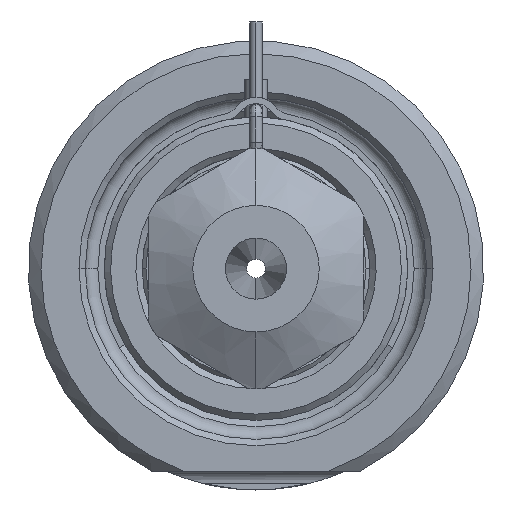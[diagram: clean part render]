
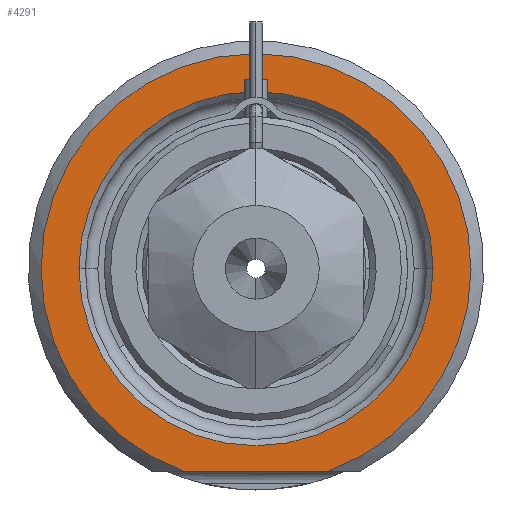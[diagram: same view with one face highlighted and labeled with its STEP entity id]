
A CAD part, front view. The second image highlights one B-rep face of the part: STEP entity #4291.
In plain terms, the highlighted planar face has unit normal (0, -1, 0).
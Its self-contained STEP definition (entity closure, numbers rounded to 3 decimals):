
#1365=CARTESIAN_POINT('',(0.,0.,0.));
#1366=DIRECTION('',(0.,-1.,0.));
#1367=DIRECTION('',(0.338,0.,-0.941));
#1368=AXIS2_PLACEMENT_3D('',#1365,#1366,#1367);
#1389=DIRECTION('',(1.,0.,0.));
#1390=VECTOR('',#1389,11.489);
#1391=CARTESIAN_POINT('',(-5.745,0.,-16.));
#1392=LINE('',#1391,#1390);
#1393=CARTESIAN_POINT('',(0.,0.,0.));
#1394=DIRECTION('',(0.,1.,0.));
#1395=DIRECTION('',(-1.,0.,0.));
#1396=AXIS2_PLACEMENT_3D('',#1393,#1394,#1395);
#1398=CARTESIAN_POINT('',(0.,0.,0.));
#1399=DIRECTION('',(0.,1.,0.));
#1400=DIRECTION('',(1.,0.,0.));
#1401=AXIS2_PLACEMENT_3D('',#1398,#1399,#1400);
#2292=CARTESIAN_POINT('',(-14.,0.,0.));
#2293=CARTESIAN_POINT('',(14.,0.,0.));
#2294=VERTEX_POINT('',#2292);
#2295=VERTEX_POINT('',#2293);
#2342=CARTESIAN_POINT('',(-5.745,0.,-16.));
#2343=CARTESIAN_POINT('',(5.745,0.,-16.));
#2344=VERTEX_POINT('',#2342);
#2345=VERTEX_POINT('',#2343);
#4276=CARTESIAN_POINT('',(0.,0.,0.));
#4277=DIRECTION('',(0.,-1.,0.));
#4278=DIRECTION('',(1.,0.,0.));
#4279=AXIS2_PLACEMENT_3D('',#4276,#4277,#4278);
#4280=PLANE('',#4279);
#4281=ORIENTED_EDGE('',*,*,#4208,.F.);
#4282=ORIENTED_EDGE('',*,*,#4268,.F.);
#4283=EDGE_LOOP('',(#4281,#4282));
#4284=FACE_OUTER_BOUND('',#4283,.F.);
#4286=ORIENTED_EDGE('',*,*,#4285,.F.);
#4288=ORIENTED_EDGE('',*,*,#4287,.F.);
#4289=EDGE_LOOP('',(#4286,#4288));
#4290=FACE_BOUND('',#4289,.F.);
#4291=ADVANCED_FACE('',(#4284,#4290),#4280,.T.);
#1369=CIRCLE('',#1368,17.);
#1397=CIRCLE('',#1396,14.);
#1402=CIRCLE('',#1401,14.);
#4208=EDGE_CURVE('',#2344,#2345,#1392,.T.);
#4268=EDGE_CURVE('',#2345,#2344,#1369,.T.);
#4285=EDGE_CURVE('',#2294,#2295,#1397,.T.);
#4287=EDGE_CURVE('',#2295,#2294,#1402,.T.);
